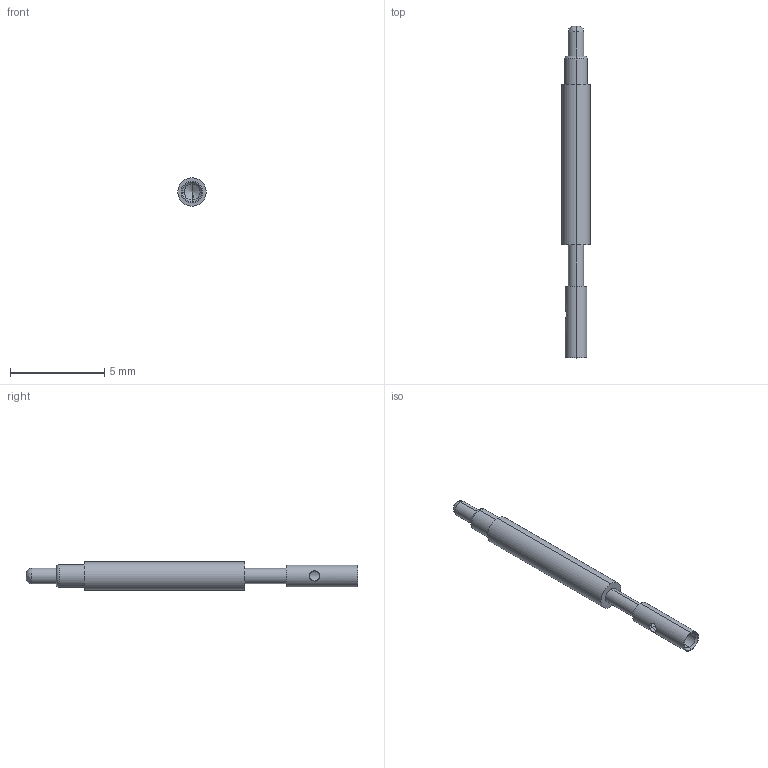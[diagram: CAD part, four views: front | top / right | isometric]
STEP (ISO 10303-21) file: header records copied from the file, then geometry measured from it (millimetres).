
FILE_DESCRIPTION((''),'2;1');
FILE_NAME('PRT0007','2023-05-26T15:43:17',('USER'),(''),'CREO PARAMETRIC BY PTC INC, 2020154','CREO PARAMETRIC BY PTC INC, 2020154','');
FILE_SCHEMA(('CONFIG_CONTROL_DESIGN'));
Length unit declared in the file: millimetre
Products named in the file (1): PRT0007
Bounding box: 1.5 x 17.6 x 1.5 mm (x, y, z)
Volume: 20.8 mm3; surface area: 80.8 mm2
Topology: 1 solids, 1 shells, 28 faces, 58 edges, 35 vertices
Faces by surface type: cylinder 14, plane 6, cone 4, bspline 2, torus 2
Entity records: 870 total; most frequent: CARTESIAN_POINT 225, DIRECTION 138, ORIENTED_EDGE 112, AXIS2_PLACEMENT_3D 60, EDGE_CURVE 56, VERTEX_POINT 35, EDGE_LOOP 35, CIRCLE 34
